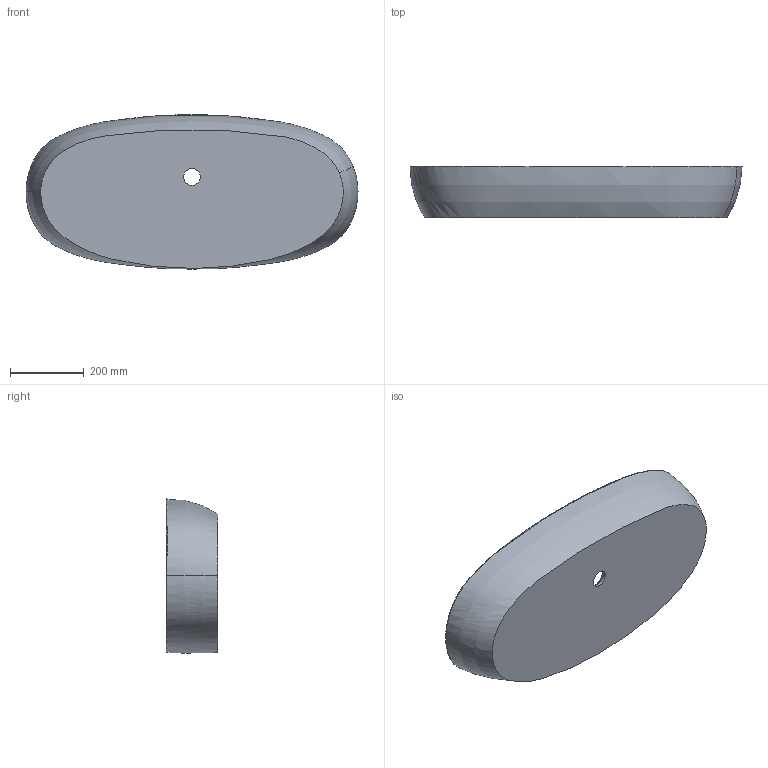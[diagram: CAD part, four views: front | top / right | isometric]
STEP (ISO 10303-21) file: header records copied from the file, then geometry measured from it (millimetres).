
FILE_DESCRIPTION(/* description */ (''),/* implementation_level */ '2;1');
FILE_NAME(/* name */ 'ECI90M',/* time_stamp */ '2017-12-11T12:30:06+01:00',/* author */ (''),/* organization */ (''),/* preprocessor_version */ 'ST-DEVELOPER v15',/* originating_system */ '',/* authorisation */ '');
FILE_SCHEMA (('AUTOMOTIVE_DESIGN'));
Length unit declared in the file: millimetre
Products named in the file (1): Document
Bounding box: 899.98 x 140 x 418.02 mm (x, y, z)
Volume: 19898985.2 mm3; surface area: 999300.9 mm2
Topology: 1 solids, 1 shells, 40 faces, 104 edges, 66 vertices
Faces by surface type: bspline 36, plane 4
Entity records: 8718 total; most frequent: CARTESIAN_POINT 8148, ORIENTED_EDGE 208, EDGE_CURVE 104, VERTEX_POINT 66, EDGE_LOOP 42, ADVANCED_FACE 40, FACE_OUTER_BOUND 40, B_SPLINE_CURVE_WITH_KNOTS 27
